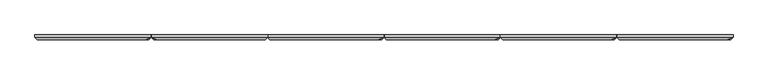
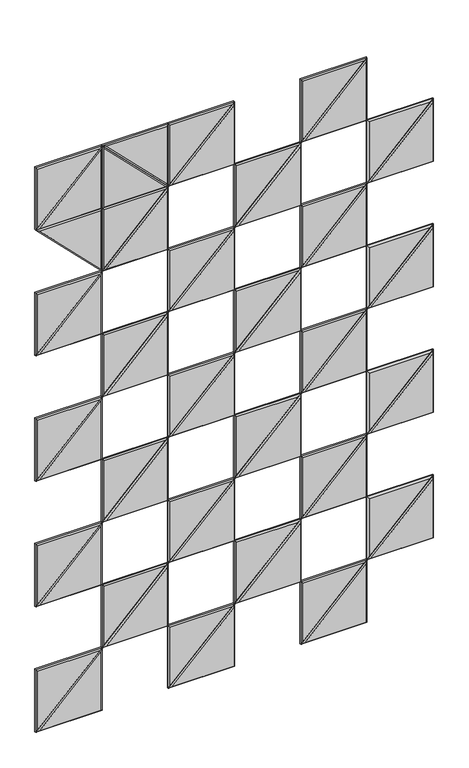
"""IFC4 building model written with IfcOpenShell, lengths in millimetres: proxy geometry, Wall_Akebia 5.3dm."""

from ifc_helpers import new_model, si_unit, origin, place, context, project, spatial, faceted_brep, source, transform, mapped, element, save


def generic_models_32465c43(model_context):
    return source(origin(), model_context, "Body", "Brep", [
        faceted_brep([(4806.448618, 12.0, 2501.5500157), (4806.448618, 12.0, 2203.1000157), (4507.998618, 12.0, 2501.5500157), (4806.448618, 6.0, 2501.5500157), (4507.998618, 6.0, 2501.5500157), (4806.448618, 6.0, 2203.1000157), (4800.448618, 0.0, 2217.5852971), (4800.448618, 0.0, 2495.5500157), (4522.4838994, 0.0, 2495.5500157)], [[[0, 1, 2]], [[3, 0, 2, 4]], [[4, 2, 1, 5]], [[5, 1, 0, 3]], [[6, 7, 8]], [[3, 4, 8, 7]], [[4, 5, 6, 8]], [[5, 3, 7, 6]]]),
        faceted_brep([(4806.4493012, 12.0, 2501.5478389), (4806.4493012, 12.0, 2799.9978389), (5104.8993012, 12.0, 2501.5478389), (4806.4493012, 6.0, 2501.5478389), (4806.4493012, 6.0, 2799.9978389), (5104.8993012, 6.0, 2501.5478389), (5090.4140198, 0.0, 2507.5478389), (4812.4493012, 0.0, 2785.5125575), (4812.4493012, 0.0, 2507.5478389)], [[[0, 1, 2]], [[3, 4, 1, 0]], [[4, 5, 2, 1]], [[5, 3, 0, 2]], [[6, 7, 8]], [[3, 8, 7, 4]], [[4, 7, 6, 5]], [[5, 6, 8, 3]]]),
        faceted_brep([(5104.8993012, 12.0, 2799.9978389), (5104.8993012, 12.0, 2501.5478389), (4806.4493012, 12.0, 2799.9978389), (5104.8993012, 6.0, 2799.9978389), (4806.4493012, 6.0, 2799.9978389), (5104.8993012, 6.0, 2501.5478389), (5098.8993012, 0.0, 2516.0331202), (5098.8993012, 0.0, 2793.9978389), (4820.9345825, 0.0, 2793.9978389)], [[[0, 1, 2]], [[3, 0, 2, 4]], [[4, 2, 1, 5]], [[5, 1, 0, 3]], [[6, 7, 8]], [[3, 4, 8, 7]], [[4, 5, 6, 8]], [[5, 3, 7, 6]]]),
        faceted_brep([(6000.2506831, 12.0, 113.9507792), (5701.8006831, 12.0, 113.9507792), (6000.2506831, 12.0, 412.4007792), (6000.2506831, 6.0, 113.9507792), (6000.2506831, 6.0, 412.4007792), (5701.8006831, 6.0, 113.9507792), (5716.2859645, 0.0, 119.9507792), (5994.2506831, 0.0, 119.9507792), (5994.2506831, 0.0, 397.9154978)], [[[0, 1, 2]], [[3, 0, 2, 4]], [[4, 2, 1, 5]], [[5, 1, 0, 3]], [[6, 7, 8]], [[3, 4, 8, 7]], [[4, 5, 6, 8]], [[5, 3, 7, 6]]]),
        faceted_brep([(5701.8006831, 12.0, 412.4007792), (6000.2506831, 12.0, 412.4007792), (5701.8006831, 12.0, 113.9507792), (5701.8006831, 6.0, 412.4007792), (6000.2506831, 6.0, 412.4007792), (5701.8006831, 6.0, 113.9507792), (5707.8006831, 0.0, 128.4360605), (5985.7654018, 0.0, 406.4007792), (5707.8006831, 0.0, 406.4007792)], [[[0, 1, 2]], [[3, 4, 1, 0]], [[4, 5, 2, 1]], [[5, 3, 0, 2]], [[6, 7, 8]], [[3, 8, 7, 4]], [[4, 7, 6, 5]], [[5, 6, 8, 3]]]),
        faceted_brep([(5403.35, 12.0, 113.95), (5104.9, 12.0, 113.95), (5403.35, 12.0, 412.4), (5403.35, 6.0, 113.95), (5403.35, 6.0, 412.4), (5104.9, 6.0, 113.95), (5119.3852814, 0.0, 119.95), (5397.35, 0.0, 119.95), (5397.35, 0.0, 397.9147186)], [[[0, 1, 2]], [[3, 0, 2, 4]], [[4, 2, 1, 5]], [[5, 1, 0, 3]], [[6, 7, 8]], [[3, 4, 8, 7]], [[4, 5, 6, 8]], [[5, 3, 7, 6]]]),
        faceted_brep([(5104.9, 12.0, 412.4), (5403.35, 12.0, 412.4), (5104.9, 12.0, 113.95), (5104.9, 6.0, 412.4), (5403.35, 6.0, 412.4), (5104.9, 6.0, 113.95), (5110.9, 0.0, 128.4352814), (5388.8647186, 0.0, 406.4), (5110.9, 0.0, 406.4)], [[[0, 1, 2]], [[3, 4, 1, 0]], [[4, 5, 2, 1]], [[5, 3, 0, 2]], [[6, 7, 8]], [[3, 8, 7, 4]], [[4, 7, 6, 5]], [[5, 6, 8, 3]]]),
        faceted_brep([(4806.4493169, 12.0, 113.9492208), (4507.9993169, 12.0, 113.9492208), (4806.4493169, 12.0, 412.3992208), (4806.4493169, 6.0, 113.9492208), (4806.4493169, 6.0, 412.3992208), (4507.9993169, 6.0, 113.9492208), (4522.4845982, 0.0, 119.9492208), (4800.4493169, 0.0, 119.9492208), (4800.4493169, 0.0, 397.9139395)], [[[0, 1, 2]], [[3, 0, 2, 4]], [[4, 2, 1, 5]], [[5, 1, 0, 3]], [[6, 7, 8]], [[3, 4, 8, 7]], [[4, 5, 6, 8]], [[5, 3, 7, 6]]]),
        faceted_brep([(4507.9993169, 12.0, 412.3992208), (4806.4493169, 12.0, 412.3992208), (4507.9993169, 12.0, 113.9492208), (4507.9993169, 6.0, 412.3992208), (4806.4493169, 6.0, 412.3992208), (4507.9993169, 6.0, 113.9492208), (4513.9993169, 0.0, 128.4345022), (4791.9640355, 0.0, 406.3992208), (4513.9993169, 0.0, 406.3992208)], [[[0, 1, 2]], [[3, 4, 1, 0]], [[4, 5, 2, 1]], [[5, 3, 0, 2]], [[6, 7, 8]], [[3, 8, 7, 4]], [[4, 7, 6, 5]], [[5, 6, 8, 3]]]),
        faceted_brep([(6000.2513663, 12.0, 710.8515583), (6298.7013663, 12.0, 710.8515583), (6000.2513663, 12.0, 412.4015583), (6000.2513663, 6.0, 710.8515583), (6000.2513663, 6.0, 412.4015583), (6298.7013663, 6.0, 710.8515583), (6284.2160849, 0.0, 704.8515583), (6006.2513663, 0.0, 704.8515583), (6006.2513663, 0.0, 426.8868397)], [[[0, 1, 2]], [[3, 0, 2, 4]], [[4, 2, 1, 5]], [[5, 1, 0, 3]], [[6, 7, 8]], [[3, 4, 8, 7]], [[4, 5, 6, 8]], [[5, 3, 7, 6]]]),
        faceted_brep([(6298.7013663, 12.0, 412.4015583), (6000.2513663, 12.0, 412.4015583), (6298.7013663, 12.0, 710.8515583), (6298.7013663, 6.0, 412.4015583), (6000.2513663, 6.0, 412.4015583), (6298.7013663, 6.0, 710.8515583), (6292.7013663, 0.0, 696.3662769), (6014.7366476, 0.0, 418.4015583), (6292.7013663, 0.0, 418.4015583)], [[[0, 1, 2]], [[3, 4, 1, 0]], [[4, 5, 2, 1]], [[5, 3, 0, 2]], [[6, 7, 8]], [[3, 8, 7, 4]], [[4, 7, 6, 5]], [[5, 6, 8, 3]]]),
        faceted_brep([(5403.3506831, 12.0, 710.8507792), (5701.8006831, 12.0, 710.8507792), (5403.3506831, 12.0, 412.4007792), (5403.3506831, 6.0, 710.8507792), (5403.3506831, 6.0, 412.4007792), (5701.8006831, 6.0, 710.8507792), (5687.3154018, 0.0, 704.8507792), (5409.3506831, 0.0, 704.8507792), (5409.3506831, 0.0, 426.8860605)], [[[0, 1, 2]], [[3, 0, 2, 4]], [[4, 2, 1, 5]], [[5, 1, 0, 3]], [[6, 7, 8]], [[3, 4, 8, 7]], [[4, 5, 6, 8]], [[5, 3, 7, 6]]]),
        faceted_brep([(5701.8006831, 12.0, 412.4007792), (5403.3506831, 12.0, 412.4007792), (5701.8006831, 12.0, 710.8507792), (5701.8006831, 6.0, 412.4007792), (5403.3506831, 6.0, 412.4007792), (5701.8006831, 6.0, 710.8507792), (5695.8006831, 0.0, 696.3654978), (5417.8359645, 0.0, 418.4007792), (5695.8006831, 0.0, 418.4007792)], [[[0, 1, 2]], [[3, 4, 1, 0]], [[4, 5, 2, 1]], [[5, 3, 0, 2]], [[6, 7, 8]], [[3, 8, 7, 4]], [[4, 7, 6, 5]], [[5, 6, 8, 3]]]),
        faceted_brep([(4806.45, 12.0, 710.85), (5104.9, 12.0, 710.85), (4806.45, 12.0, 412.4), (4806.45, 6.0, 710.85), (4806.45, 6.0, 412.4), (5104.9, 6.0, 710.85), (5090.4147186, 0.0, 704.85), (4812.45, 0.0, 704.85), (4812.45, 0.0, 426.8852814)], [[[0, 1, 2]], [[3, 0, 2, 4]], [[4, 2, 1, 5]], [[5, 1, 0, 3]], [[6, 7, 8]], [[3, 4, 8, 7]], [[4, 5, 6, 8]], [[5, 3, 7, 6]]]),
        faceted_brep([(5104.9, 12.0, 412.4), (4806.45, 12.0, 412.4), (5104.9, 12.0, 710.85), (5104.9, 6.0, 412.4), (4806.45, 6.0, 412.4), (5104.9, 6.0, 710.85), (5098.9, 0.0, 696.3647186), (4820.9352814, 0.0, 418.4), (5098.9, 0.0, 418.4)], [[[0, 1, 2]], [[3, 4, 1, 0]], [[4, 5, 2, 1]], [[5, 3, 0, 2]], [[6, 7, 8]], [[3, 8, 7, 4]], [[4, 7, 6, 5]], [[5, 6, 8, 3]]]),
        faceted_brep([(6000.2506831, 12.0, 710.8507792), (5701.8006831, 12.0, 710.8507792), (6000.2506831, 12.0, 1009.3007792), (6000.2506831, 6.0, 710.8507792), (6000.2506831, 6.0, 1009.3007792), (5701.8006831, 6.0, 710.8507792), (5716.2859645, 0.0, 716.8507792), (5994.2506831, 0.0, 716.8507792), (5994.2506831, 0.0, 994.8154978)], [[[0, 1, 2]], [[3, 0, 2, 4]], [[4, 2, 1, 5]], [[5, 1, 0, 3]], [[6, 7, 8]], [[3, 4, 8, 7]], [[4, 5, 6, 8]], [[5, 3, 7, 6]]]),
        faceted_brep([(5701.8006831, 12.0, 1009.3007792), (6000.2506831, 12.0, 1009.3007792), (5701.8006831, 12.0, 710.8507792), (5701.8006831, 6.0, 1009.3007792), (6000.2506831, 6.0, 1009.3007792), (5701.8006831, 6.0, 710.8507792), (5707.8006831, 0.0, 725.3360605), (5985.7654018, 0.0, 1003.3007792), (5707.8006831, 0.0, 1003.3007792)], [[[0, 1, 2]], [[3, 4, 1, 0]], [[4, 5, 2, 1]], [[5, 3, 0, 2]], [[6, 7, 8]], [[3, 8, 7, 4]], [[4, 7, 6, 5]], [[5, 6, 8, 3]]]),
        faceted_brep([(5403.35, 12.0, 710.85), (5104.9, 12.0, 710.85), (5403.35, 12.0, 1009.3), (5403.35, 6.0, 710.85), (5403.35, 6.0, 1009.3), (5104.9, 6.0, 710.85), (5119.3852814, 0.0, 716.85), (5397.35, 0.0, 716.85), (5397.35, 0.0, 994.8147186)], [[[0, 1, 2]], [[3, 0, 2, 4]], [[4, 2, 1, 5]], [[5, 1, 0, 3]], [[6, 7, 8]], [[3, 4, 8, 7]], [[4, 5, 6, 8]], [[5, 3, 7, 6]]]),
        faceted_brep([(5104.9, 12.0, 1009.3), (5403.35, 12.0, 1009.3), (5104.9, 12.0, 710.85), (5104.9, 6.0, 1009.3), (5403.35, 6.0, 1009.3), (5104.9, 6.0, 710.85), (5110.9, 0.0, 725.3352814), (5388.8647186, 0.0, 1003.3), (5110.9, 0.0, 1003.3)], [[[0, 1, 2]], [[3, 4, 1, 0]], [[4, 5, 2, 1]], [[5, 3, 0, 2]], [[6, 7, 8]], [[3, 8, 7, 4]], [[4, 7, 6, 5]], [[5, 6, 8, 3]]]),
        faceted_brep([(4806.4493169, 12.0, 710.8492208), (4507.9993169, 12.0, 710.8492208), (4806.4493169, 12.0, 1009.2992208), (4806.4493169, 6.0, 710.8492208), (4806.4493169, 6.0, 1009.2992208), (4507.9993169, 6.0, 710.8492208), (4522.4845982, 0.0, 716.8492208), (4800.4493169, 0.0, 716.8492208), (4800.4493169, 0.0, 994.8139395)], [[[0, 1, 2]], [[3, 0, 2, 4]], [[4, 2, 1, 5]], [[5, 1, 0, 3]], [[6, 7, 8]], [[3, 4, 8, 7]], [[4, 5, 6, 8]], [[5, 3, 7, 6]]]),
        faceted_brep([(4507.9993169, 12.0, 1009.2992208), (4806.4493169, 12.0, 1009.2992208), (4507.9993169, 12.0, 710.8492208), (4507.9993169, 6.0, 1009.2992208), (4806.4493169, 6.0, 1009.2992208), (4507.9993169, 6.0, 710.8492208), (4513.9993169, 0.0, 725.3345022), (4791.9640355, 0.0, 1003.2992208), (4513.9993169, 0.0, 1003.2992208)], [[[0, 1, 2]], [[3, 4, 1, 0]], [[4, 5, 2, 1]], [[5, 3, 0, 2]], [[6, 7, 8]], [[3, 8, 7, 4]], [[4, 7, 6, 5]], [[5, 6, 8, 3]]]),
        faceted_brep([(6000.2513663, 12.0, 1307.7515583), (6298.7013663, 12.0, 1307.7515583), (6000.2513663, 12.0, 1009.3015583), (6000.2513663, 6.0, 1307.7515583), (6000.2513663, 6.0, 1009.3015583), (6298.7013663, 6.0, 1307.7515583), (6284.2160849, 0.0, 1301.7515583), (6006.2513663, 0.0, 1301.7515583), (6006.2513663, 0.0, 1023.7868397)], [[[0, 1, 2]], [[3, 0, 2, 4]], [[4, 2, 1, 5]], [[5, 1, 0, 3]], [[6, 7, 8]], [[3, 4, 8, 7]], [[4, 5, 6, 8]], [[5, 3, 7, 6]]]),
        faceted_brep([(6298.7013663, 12.0, 1009.3015583), (6000.2513663, 12.0, 1009.3015583), (6298.7013663, 12.0, 1307.7515583), (6298.7013663, 6.0, 1009.3015583), (6000.2513663, 6.0, 1009.3015583), (6298.7013663, 6.0, 1307.7515583), (6292.7013663, 0.0, 1293.2662769), (6014.7366476, 0.0, 1015.3015583), (6292.7013663, 0.0, 1015.3015583)], [[[0, 1, 2]], [[3, 4, 1, 0]], [[4, 5, 2, 1]], [[5, 3, 0, 2]], [[6, 7, 8]], [[3, 8, 7, 4]], [[4, 7, 6, 5]], [[5, 6, 8, 3]]]),
        faceted_brep([(5403.3506831, 12.0, 1307.7507792), (5701.8006831, 12.0, 1307.7507792), (5403.3506831, 12.0, 1009.3007792), (5403.3506831, 6.0, 1307.7507792), (5403.3506831, 6.0, 1009.3007792), (5701.8006831, 6.0, 1307.7507792), (5687.3154018, 0.0, 1301.7507792), (5409.3506831, 0.0, 1301.7507792), (5409.3506831, 0.0, 1023.7860605)], [[[0, 1, 2]], [[3, 0, 2, 4]], [[4, 2, 1, 5]], [[5, 1, 0, 3]], [[6, 7, 8]], [[3, 4, 8, 7]], [[4, 5, 6, 8]], [[5, 3, 7, 6]]]),
        faceted_brep([(5701.8006831, 12.0, 1009.3007792), (5403.3506831, 12.0, 1009.3007792), (5701.8006831, 12.0, 1307.7507792), (5701.8006831, 6.0, 1009.3007792), (5403.3506831, 6.0, 1009.3007792), (5701.8006831, 6.0, 1307.7507792), (5695.8006831, 0.0, 1293.2654978), (5417.8359645, 0.0, 1015.3007792), (5695.8006831, 0.0, 1015.3007792)], [[[0, 1, 2]], [[3, 4, 1, 0]], [[4, 5, 2, 1]], [[5, 3, 0, 2]], [[6, 7, 8]], [[3, 8, 7, 4]], [[4, 7, 6, 5]], [[5, 6, 8, 3]]]),
        faceted_brep([(4806.45, 12.0, 1307.75), (5104.9, 12.0, 1307.75), (4806.45, 12.0, 1009.3), (4806.45, 6.0, 1307.75), (4806.45, 6.0, 1009.3), (5104.9, 6.0, 1307.75), (5090.4147186, 0.0, 1301.75), (4812.45, 0.0, 1301.75), (4812.45, 0.0, 1023.7852814)], [[[0, 1, 2]], [[3, 0, 2, 4]], [[4, 2, 1, 5]], [[5, 1, 0, 3]], [[6, 7, 8]], [[3, 4, 8, 7]], [[4, 5, 6, 8]], [[5, 3, 7, 6]]]),
        faceted_brep([(5104.9, 12.0, 1009.3), (4806.45, 12.0, 1009.3), (5104.9, 12.0, 1307.75), (5104.9, 6.0, 1009.3), (4806.45, 6.0, 1009.3), (5104.9, 6.0, 1307.75), (5098.9, 0.0, 1293.2647186), (4820.9352814, 0.0, 1015.3), (5098.9, 0.0, 1015.3)], [[[0, 1, 2]], [[3, 4, 1, 0]], [[4, 5, 2, 1]], [[5, 3, 0, 2]], [[6, 7, 8]], [[3, 8, 7, 4]], [[4, 7, 6, 5]], [[5, 6, 8, 3]]]),
        faceted_brep([(6000.2506831, 12.0, 1307.7507792), (5701.8006831, 12.0, 1307.7507792), (6000.2506831, 12.0, 1606.2007792), (6000.2506831, 6.0, 1307.7507792), (6000.2506831, 6.0, 1606.2007792), (5701.8006831, 6.0, 1307.7507792), (5716.2859645, 0.0, 1313.7507792), (5994.2506831, 0.0, 1313.7507792), (5994.2506831, 0.0, 1591.7154978)], [[[0, 1, 2]], [[3, 0, 2, 4]], [[4, 2, 1, 5]], [[5, 1, 0, 3]], [[6, 7, 8]], [[3, 4, 8, 7]], [[4, 5, 6, 8]], [[5, 3, 7, 6]]]),
        faceted_brep([(5701.8006831, 12.0, 1606.2007792), (6000.2506831, 12.0, 1606.2007792), (5701.8006831, 12.0, 1307.7507792), (5701.8006831, 6.0, 1606.2007792), (6000.2506831, 6.0, 1606.2007792), (5701.8006831, 6.0, 1307.7507792), (5707.8006831, 0.0, 1322.2360605), (5985.7654018, 0.0, 1600.2007792), (5707.8006831, 0.0, 1600.2007792)], [[[0, 1, 2]], [[3, 4, 1, 0]], [[4, 5, 2, 1]], [[5, 3, 0, 2]], [[6, 7, 8]], [[3, 8, 7, 4]], [[4, 7, 6, 5]], [[5, 6, 8, 3]]]),
        faceted_brep([(5403.35, 12.0, 1307.75), (5104.9, 12.0, 1307.75), (5403.35, 12.0, 1606.2), (5403.35, 6.0, 1307.75), (5403.35, 6.0, 1606.2), (5104.9, 6.0, 1307.75), (5119.3852814, 0.0, 1313.75), (5397.35, 0.0, 1313.75), (5397.35, 0.0, 1591.7147186)], [[[0, 1, 2]], [[3, 0, 2, 4]], [[4, 2, 1, 5]], [[5, 1, 0, 3]], [[6, 7, 8]], [[3, 4, 8, 7]], [[4, 5, 6, 8]], [[5, 3, 7, 6]]]),
        faceted_brep([(5104.9, 12.0, 1606.2), (5403.35, 12.0, 1606.2), (5104.9, 12.0, 1307.75), (5104.9, 6.0, 1606.2), (5403.35, 6.0, 1606.2), (5104.9, 6.0, 1307.75), (5110.9, 0.0, 1322.2352814), (5388.8647186, 0.0, 1600.2), (5110.9, 0.0, 1600.2)], [[[0, 1, 2]], [[3, 4, 1, 0]], [[4, 5, 2, 1]], [[5, 3, 0, 2]], [[6, 7, 8]], [[3, 8, 7, 4]], [[4, 7, 6, 5]], [[5, 6, 8, 3]]]),
        faceted_brep([(4806.4493169, 12.0, 1307.7492208), (4507.9993169, 12.0, 1307.7492208), (4806.4493169, 12.0, 1606.1992208), (4806.4493169, 6.0, 1307.7492208), (4806.4493169, 6.0, 1606.1992208), (4507.9993169, 6.0, 1307.7492208), (4522.4845982, 0.0, 1313.7492208), (4800.4493169, 0.0, 1313.7492208), (4800.4493169, 0.0, 1591.7139395)], [[[0, 1, 2]], [[3, 0, 2, 4]], [[4, 2, 1, 5]], [[5, 1, 0, 3]], [[6, 7, 8]], [[3, 4, 8, 7]], [[4, 5, 6, 8]], [[5, 3, 7, 6]]]),
        faceted_brep([(4507.9993169, 12.0, 1606.1992208), (4806.4493169, 12.0, 1606.1992208), (4507.9993169, 12.0, 1307.7492208), (4507.9993169, 6.0, 1606.1992208), (4806.4493169, 6.0, 1606.1992208), (4507.9993169, 6.0, 1307.7492208), (4513.9993169, 0.0, 1322.2345022), (4791.9640355, 0.0, 1600.1992208), (4513.9993169, 0.0, 1600.1992208)], [[[0, 1, 2]], [[3, 4, 1, 0]], [[4, 5, 2, 1]], [[5, 3, 0, 2]], [[6, 7, 8]], [[3, 8, 7, 4]], [[4, 7, 6, 5]], [[5, 6, 8, 3]]]),
        faceted_brep([(6000.2513663, 12.0, 1904.6515583), (6298.7013663, 12.0, 1904.6515583), (6000.2513663, 12.0, 1606.2015583), (6000.2513663, 6.0, 1904.6515583), (6000.2513663, 6.0, 1606.2015583), (6298.7013663, 6.0, 1904.6515583), (6284.2160849, 0.0, 1898.6515583), (6006.2513663, 0.0, 1898.6515583), (6006.2513663, 0.0, 1620.6868397)], [[[0, 1, 2]], [[3, 0, 2, 4]], [[4, 2, 1, 5]], [[5, 1, 0, 3]], [[6, 7, 8]], [[3, 4, 8, 7]], [[4, 5, 6, 8]], [[5, 3, 7, 6]]]),
        faceted_brep([(6298.7013663, 12.0, 1606.2015583), (6000.2513663, 12.0, 1606.2015583), (6298.7013663, 12.0, 1904.6515583), (6298.7013663, 6.0, 1606.2015583), (6000.2513663, 6.0, 1606.2015583), (6298.7013663, 6.0, 1904.6515583), (6292.7013663, 0.0, 1890.1662769), (6014.7366476, 0.0, 1612.2015583), (6292.7013663, 0.0, 1612.2015583)], [[[0, 1, 2]], [[3, 4, 1, 0]], [[4, 5, 2, 1]], [[5, 3, 0, 2]], [[6, 7, 8]], [[3, 8, 7, 4]], [[4, 7, 6, 5]], [[5, 6, 8, 3]]]),
        faceted_brep([(5403.3506831, 12.0, 1904.6507792), (5701.8006831, 12.0, 1904.6507792), (5403.3506831, 12.0, 1606.2007792), (5403.3506831, 6.0, 1904.6507792), (5403.3506831, 6.0, 1606.2007792), (5701.8006831, 6.0, 1904.6507792), (5687.3154018, 0.0, 1898.6507792), (5409.3506831, 0.0, 1898.6507792), (5409.3506831, 0.0, 1620.6860605)], [[[0, 1, 2]], [[3, 0, 2, 4]], [[4, 2, 1, 5]], [[5, 1, 0, 3]], [[6, 7, 8]], [[3, 4, 8, 7]], [[4, 5, 6, 8]], [[5, 3, 7, 6]]]),
        faceted_brep([(5701.8006831, 12.0, 1606.2007792), (5403.3506831, 12.0, 1606.2007792), (5701.8006831, 12.0, 1904.6507792), (5701.8006831, 6.0, 1606.2007792), (5403.3506831, 6.0, 1606.2007792), (5701.8006831, 6.0, 1904.6507792), (5695.8006831, 0.0, 1890.1654978), (5417.8359645, 0.0, 1612.2007792), (5695.8006831, 0.0, 1612.2007792)], [[[0, 1, 2]], [[3, 4, 1, 0]], [[4, 5, 2, 1]], [[5, 3, 0, 2]], [[6, 7, 8]], [[3, 8, 7, 4]], [[4, 7, 6, 5]], [[5, 6, 8, 3]]]),
        faceted_brep([(4806.45, 12.0, 1904.65), (5104.9, 12.0, 1904.65), (4806.45, 12.0, 1606.2), (4806.45, 6.0, 1904.65), (4806.45, 6.0, 1606.2), (5104.9, 6.0, 1904.65), (5090.4147186, 0.0, 1898.65), (4812.45, 0.0, 1898.65), (4812.45, 0.0, 1620.6852814)], [[[0, 1, 2]], [[3, 0, 2, 4]], [[4, 2, 1, 5]], [[5, 1, 0, 3]], [[6, 7, 8]], [[3, 4, 8, 7]], [[4, 5, 6, 8]], [[5, 3, 7, 6]]]),
        faceted_brep([(5104.9, 12.0, 1606.2), (4806.45, 12.0, 1606.2), (5104.9, 12.0, 1904.65), (5104.9, 6.0, 1606.2), (4806.45, 6.0, 1606.2), (5104.9, 6.0, 1904.65), (5098.9, 0.0, 1890.1647186), (4820.9352814, 0.0, 1612.2), (5098.9, 0.0, 1612.2)], [[[0, 1, 2]], [[3, 4, 1, 0]], [[4, 5, 2, 1]], [[5, 3, 0, 2]], [[6, 7, 8]], [[3, 8, 7, 4]], [[4, 7, 6, 5]], [[5, 6, 8, 3]]]),
        faceted_brep([(6000.2506831, 12.0, 1904.6507792), (5701.8006831, 12.0, 1904.6507792), (6000.2506831, 12.0, 2203.1007792), (6000.2506831, 6.0, 1904.6507792), (6000.2506831, 6.0, 2203.1007792), (5701.8006831, 6.0, 1904.6507792), (5716.2859645, 0.0, 1910.6507792), (5994.2506831, 0.0, 1910.6507792), (5994.2506831, 0.0, 2188.6154978)], [[[0, 1, 2]], [[3, 0, 2, 4]], [[4, 2, 1, 5]], [[5, 1, 0, 3]], [[6, 7, 8]], [[3, 4, 8, 7]], [[4, 5, 6, 8]], [[5, 3, 7, 6]]]),
        faceted_brep([(5701.8006831, 12.0, 2203.1007792), (6000.2506831, 12.0, 2203.1007792), (5701.8006831, 12.0, 1904.6507792), (5701.8006831, 6.0, 2203.1007792), (6000.2506831, 6.0, 2203.1007792), (5701.8006831, 6.0, 1904.6507792), (5707.8006831, 0.0, 1919.1360605), (5985.7654018, 0.0, 2197.1007792), (5707.8006831, 0.0, 2197.1007792)], [[[0, 1, 2]], [[3, 4, 1, 0]], [[4, 5, 2, 1]], [[5, 3, 0, 2]], [[6, 7, 8]], [[3, 8, 7, 4]], [[4, 7, 6, 5]], [[5, 6, 8, 3]]]),
        faceted_brep([(5403.35, 12.0, 1904.65), (5104.9, 12.0, 1904.65), (5403.35, 12.0, 2203.1), (5403.35, 6.0, 1904.65), (5403.35, 6.0, 2203.1), (5104.9, 6.0, 1904.65), (5119.3852814, 0.0, 1910.65), (5397.35, 0.0, 1910.65), (5397.35, 0.0, 2188.6147186)], [[[0, 1, 2]], [[3, 0, 2, 4]], [[4, 2, 1, 5]], [[5, 1, 0, 3]], [[6, 7, 8]], [[3, 4, 8, 7]], [[4, 5, 6, 8]], [[5, 3, 7, 6]]]),
        faceted_brep([(5104.9, 12.0, 2203.1), (5403.35, 12.0, 2203.1), (5104.9, 12.0, 1904.65), (5104.9, 6.0, 2203.1), (5403.35, 6.0, 2203.1), (5104.9, 6.0, 1904.65), (5110.9, 0.0, 1919.1352814), (5388.8647186, 0.0, 2197.1), (5110.9, 0.0, 2197.1)], [[[0, 1, 2]], [[3, 4, 1, 0]], [[4, 5, 2, 1]], [[5, 3, 0, 2]], [[6, 7, 8]], [[3, 8, 7, 4]], [[4, 7, 6, 5]], [[5, 6, 8, 3]]]),
        faceted_brep([(4806.4493169, 12.0, 1904.6492208), (4507.9993169, 12.0, 1904.6492208), (4806.4493169, 12.0, 2203.0992208), (4806.4493169, 6.0, 1904.6492208), (4806.4493169, 6.0, 2203.0992208), (4507.9993169, 6.0, 1904.6492208), (4522.4845982, 0.0, 1910.6492208), (4800.4493169, 0.0, 1910.6492208), (4800.4493169, 0.0, 2188.6139395)], [[[0, 1, 2]], [[3, 0, 2, 4]], [[4, 2, 1, 5]], [[5, 1, 0, 3]], [[6, 7, 8]], [[3, 4, 8, 7]], [[4, 5, 6, 8]], [[5, 3, 7, 6]]]),
        faceted_brep([(4507.9993169, 12.0, 2203.0992208), (4806.4493169, 12.0, 2203.0992208), (4507.9993169, 12.0, 1904.6492208), (4507.9993169, 6.0, 2203.0992208), (4806.4493169, 6.0, 2203.0992208), (4507.9993169, 6.0, 1904.6492208), (4513.9993169, 0.0, 1919.1345022), (4791.9640355, 0.0, 2197.0992208), (4513.9993169, 0.0, 2197.0992208)], [[[0, 1, 2]], [[3, 4, 1, 0]], [[4, 5, 2, 1]], [[5, 3, 0, 2]], [[6, 7, 8]], [[3, 8, 7, 4]], [[4, 7, 6, 5]], [[5, 6, 8, 3]]]),
        faceted_brep([(6000.2513663, 12.0, 2501.5515583), (6298.7013663, 12.0, 2501.5515583), (6000.2513663, 12.0, 2203.1015583), (6000.2513663, 6.0, 2501.5515583), (6000.2513663, 6.0, 2203.1015583), (6298.7013663, 6.0, 2501.5515583), (6284.2160849, 0.0, 2495.5515583), (6006.2513663, 0.0, 2495.5515583), (6006.2513663, 0.0, 2217.5868397)], [[[0, 1, 2]], [[3, 0, 2, 4]], [[4, 2, 1, 5]], [[5, 1, 0, 3]], [[6, 7, 8]], [[3, 4, 8, 7]], [[4, 5, 6, 8]], [[5, 3, 7, 6]]]),
        faceted_brep([(6298.7013663, 12.0, 2203.1015583), (6000.2513663, 12.0, 2203.1015583), (6298.7013663, 12.0, 2501.5515583), (6298.7013663, 6.0, 2203.1015583), (6000.2513663, 6.0, 2203.1015583), (6298.7013663, 6.0, 2501.5515583), (6292.7013663, 0.0, 2487.0662769), (6014.7366476, 0.0, 2209.1015583), (6292.7013663, 0.0, 2209.1015583)], [[[0, 1, 2]], [[3, 4, 1, 0]], [[4, 5, 2, 1]], [[5, 3, 0, 2]], [[6, 7, 8]], [[3, 8, 7, 4]], [[4, 7, 6, 5]], [[5, 6, 8, 3]]]),
        faceted_brep([(5403.3506831, 12.0, 2501.5507792), (5701.8006831, 12.0, 2501.5507792), (5403.3506831, 12.0, 2203.1007792), (5403.3506831, 6.0, 2501.5507792), (5403.3506831, 6.0, 2203.1007792), (5701.8006831, 6.0, 2501.5507792), (5687.3154018, 0.0, 2495.5507792), (5409.3506831, 0.0, 2495.5507792), (5409.3506831, 0.0, 2217.5860605)], [[[0, 1, 2]], [[3, 0, 2, 4]], [[4, 2, 1, 5]], [[5, 1, 0, 3]], [[6, 7, 8]], [[3, 4, 8, 7]], [[4, 5, 6, 8]], [[5, 3, 7, 6]]]),
        faceted_brep([(5701.8006831, 12.0, 2203.1007792), (5403.3506831, 12.0, 2203.1007792), (5701.8006831, 12.0, 2501.5507792), (5701.8006831, 6.0, 2203.1007792), (5403.3506831, 6.0, 2203.1007792), (5701.8006831, 6.0, 2501.5507792), (5695.8006831, 0.0, 2487.0654978), (5417.8359645, 0.0, 2209.1007792), (5695.8006831, 0.0, 2209.1007792)], [[[0, 1, 2]], [[3, 4, 1, 0]], [[4, 5, 2, 1]], [[5, 3, 0, 2]], [[6, 7, 8]], [[3, 8, 7, 4]], [[4, 7, 6, 5]], [[5, 6, 8, 3]]]),
        faceted_brep([(4806.45, 12.0, 2501.55), (5104.9, 12.0, 2501.55), (4806.45, 12.0, 2203.1), (4806.45, 6.0, 2501.55), (4806.45, 6.0, 2203.1), (5104.9, 6.0, 2501.55), (5090.4147186, 0.0, 2495.55), (4812.45, 0.0, 2495.55), (4812.45, 0.0, 2217.5852814)], [[[0, 1, 2]], [[3, 0, 2, 4]], [[4, 2, 1, 5]], [[5, 1, 0, 3]], [[6, 7, 8]], [[3, 4, 8, 7]], [[4, 5, 6, 8]], [[5, 3, 7, 6]]]),
        faceted_brep([(5104.9, 12.0, 2203.1), (4806.45, 12.0, 2203.1), (5104.9, 12.0, 2501.55), (5104.9, 6.0, 2203.1), (4806.45, 6.0, 2203.1), (5104.9, 6.0, 2501.55), (5098.9, 0.0, 2487.0647186), (4820.9352814, 0.0, 2209.1), (5098.9, 0.0, 2209.1)], [[[0, 1, 2]], [[3, 4, 1, 0]], [[4, 5, 2, 1]], [[5, 3, 0, 2]], [[6, 7, 8]], [[3, 8, 7, 4]], [[4, 7, 6, 5]], [[5, 6, 8, 3]]]),
        faceted_brep([(6000.2506831, 12.0, 2501.5507792), (5701.8006831, 12.0, 2501.5507792), (6000.2506831, 12.0, 2800.0007792), (6000.2506831, 6.0, 2501.5507792), (6000.2506831, 6.0, 2800.0007792), (5701.8006831, 6.0, 2501.5507792), (5716.2859645, 0.0, 2507.5507792), (5994.2506831, 0.0, 2507.5507792), (5994.2506831, 0.0, 2785.5154978)], [[[0, 1, 2]], [[3, 0, 2, 4]], [[4, 2, 1, 5]], [[5, 1, 0, 3]], [[6, 7, 8]], [[3, 4, 8, 7]], [[4, 5, 6, 8]], [[5, 3, 7, 6]]]),
        faceted_brep([(5701.8006831, 12.0, 2800.0007792), (6000.2506831, 12.0, 2800.0007792), (5701.8006831, 12.0, 2501.5507792), (5701.8006831, 6.0, 2800.0007792), (6000.2506831, 6.0, 2800.0007792), (5701.8006831, 6.0, 2501.5507792), (5707.8006831, 0.0, 2516.0360605), (5985.7654018, 0.0, 2794.0007792), (5707.8006831, 0.0, 2794.0007792)], [[[0, 1, 2]], [[3, 4, 1, 0]], [[4, 5, 2, 1]], [[5, 3, 0, 2]], [[6, 7, 8]], [[3, 8, 7, 4]], [[4, 7, 6, 5]], [[5, 6, 8, 3]]]),
        faceted_brep([(5403.35, 12.0, 2501.55), (5104.9, 12.0, 2501.55), (5403.35, 12.0, 2800.0), (5403.35, 6.0, 2501.55), (5403.35, 6.0, 2800.0), (5104.9, 6.0, 2501.55), (5119.3852814, 0.0, 2507.55), (5397.35, 0.0, 2507.55), (5397.35, 0.0, 2785.5147186)], [[[0, 1, 2]], [[3, 0, 2, 4]], [[4, 2, 1, 5]], [[5, 1, 0, 3]], [[6, 7, 8]], [[3, 4, 8, 7]], [[4, 5, 6, 8]], [[5, 3, 7, 6]]]),
        faceted_brep([(5104.9, 12.0, 2800.0), (5403.35, 12.0, 2800.0), (5104.9, 12.0, 2501.55), (5104.9, 6.0, 2800.0), (5403.35, 6.0, 2800.0), (5104.9, 6.0, 2501.55), (5110.9, 0.0, 2516.0352814), (5388.8647186, 0.0, 2794.0), (5110.9, 0.0, 2794.0)], [[[0, 1, 2]], [[3, 4, 1, 0]], [[4, 5, 2, 1]], [[5, 3, 0, 2]], [[6, 7, 8]], [[3, 8, 7, 4]], [[4, 7, 6, 5]], [[5, 6, 8, 3]]]),
        faceted_brep([(4806.4493169, 12.0, 2501.5492208), (4507.9993169, 12.0, 2501.5492208), (4806.4493169, 12.0, 2799.9992208), (4806.4493169, 6.0, 2501.5492208), (4806.4493169, 6.0, 2799.9992208), (4507.9993169, 6.0, 2501.5492208), (4522.4845982, 0.0, 2507.5492208), (4800.4493169, 0.0, 2507.5492208), (4800.4493169, 0.0, 2785.5139395)], [[[0, 1, 2]], [[3, 0, 2, 4]], [[4, 2, 1, 5]], [[5, 1, 0, 3]], [[6, 7, 8]], [[3, 4, 8, 7]], [[4, 5, 6, 8]], [[5, 3, 7, 6]]]),
        faceted_brep([(4507.9993169, 12.0, 2799.9992208), (4806.4493169, 12.0, 2799.9992208), (4507.9993169, 12.0, 2501.5492208), (4507.9993169, 6.0, 2799.9992208), (4806.4493169, 6.0, 2799.9992208), (4507.9993169, 6.0, 2501.5492208), (4513.9993169, 0.0, 2516.0345022), (4791.9640355, 0.0, 2793.9992208), (4513.9993169, 0.0, 2793.9992208)], [[[0, 1, 2]], [[3, 4, 1, 0]], [[4, 5, 2, 1]], [[5, 3, 0, 2]], [[6, 7, 8]], [[3, 8, 7, 4]], [[4, 7, 6, 5]], [[5, 6, 8, 3]]]),
    ])


if __name__ == "__main__":
    model = new_model("IFC4")
    model_context = context("Model", 3, world=origin())
    ifc_project = project(units=[si_unit("LENGTHUNIT", "METRE", prefix="MILLI")], contexts=[model_context])
    site = spatial("IfcSite", under=ifc_project)
    building = spatial("IfcBuilding", under=site)
    placement = place(None, origin())
    generic_models_shape = generic_models_32465c43(model_context)
    element("IfcBuildingElementProxy", 1, Name="Wall_Akebia 5.3dm", ObjectType="Wall_Akebia 5.3dm", at=placement, inside=building, context=model_context, shape_type="MappedRepresentation", body=[
        mapped(generic_models_shape, transform((0.0, 0.0, 0.0), x_axis=(1.0, 0.0, 0.0), y_axis=(0.0, 1.0, 0.0), z_axis=(0.0, 0.0, 1.0))),
    ])
    save(model, "model.ifc")
